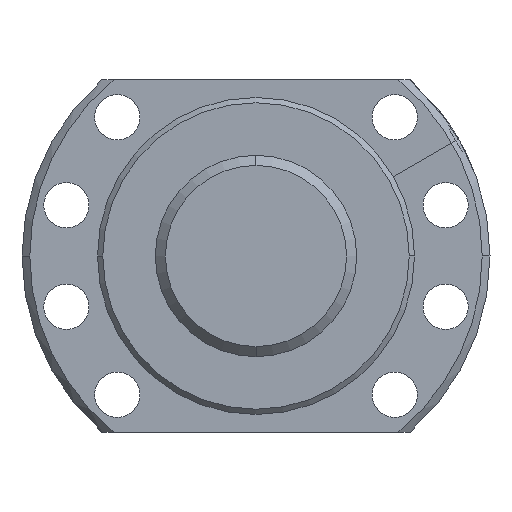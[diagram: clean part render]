
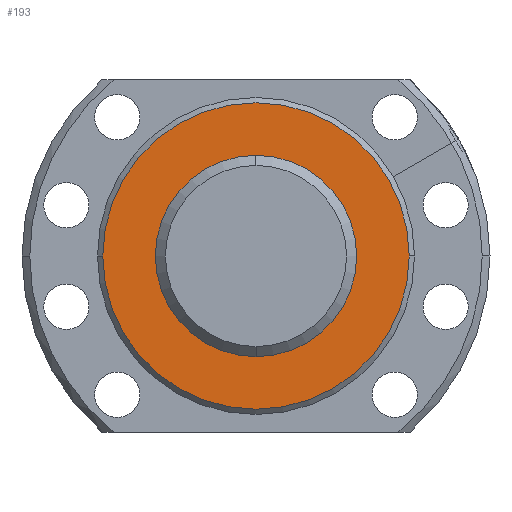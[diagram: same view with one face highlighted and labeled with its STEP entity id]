
A CAD part, left-side view. The second image highlights one B-rep face of the part: STEP entity #193.
In plain terms, the highlighted planar face has unit normal (-1, 0, 0).
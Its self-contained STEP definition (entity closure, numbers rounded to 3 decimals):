
#193 = ADVANCED_FACE( '', ( #361, #362 ), #363, .T. );
#361 = FACE_BOUND( '', #530, .T. );
#362 = FACE_OUTER_BOUND( '', #531, .T. );
#363 = PLANE( '', #532 );
#530 = EDGE_LOOP( '', ( #1073, #1074 ) );
#531 = EDGE_LOOP( '', ( #1075, #1076 ) );
#532 = AXIS2_PLACEMENT_3D( '', #1077, #1078, #1079 );
#1073 = ORIENTED_EDGE( '', *, *, #1235, .F. );
#1074 = ORIENTED_EDGE( '', *, *, #1149, .F. );
#1075 = ORIENTED_EDGE( '', *, *, #1121, .T. );
#1076 = ORIENTED_EDGE( '', *, *, #1246, .T. );
#1077 = CARTESIAN_POINT( '', ( 5., 25.225, 0. ) );
#1078 = DIRECTION( '', ( -1., 0., 0. ) );
#1079 = DIRECTION( '', ( 0., 1., 0. ) );
#1121 = EDGE_CURVE( '', #1310, #1314, #1316, .T. );
#1149 = EDGE_CURVE( '', #1366, #1362, #1368, .T. );
#1235 = EDGE_CURVE( '', #1362, #1366, #1509, .T. );
#1246 = EDGE_CURVE( '', #1314, #1310, #1520, .T. );
#1310 = VERTEX_POINT( '', #1598 );
#1314 = VERTEX_POINT( '', #1603 );
#1316 = CIRCLE( '', #1606, 30.45 );
#1362 = VERTEX_POINT( '', #1682 );
#1366 = VERTEX_POINT( '', #1687 );
#1368 = CIRCLE( '', #1690, 20. );
#1509 = CIRCLE( '', #2049, 20. );
#1520 = CIRCLE( '', #2060, 30.45 );
#1598 = CARTESIAN_POINT( '', ( 5., 30.45, 0. ) );
#1603 = CARTESIAN_POINT( '', ( 5., -30.45, 0. ) );
#1606 = AXIS2_PLACEMENT_3D( '', #2152, #2153, #2154 );
#1682 = CARTESIAN_POINT( '', ( 5., 20., 0. ) );
#1687 = CARTESIAN_POINT( '', ( 5., -20., 0. ) );
#1690 = AXIS2_PLACEMENT_3D( '', #2202, #2203, #2204 );
#2049 = AXIS2_PLACEMENT_3D( '', #2367, #2368, #2369 );
#2060 = AXIS2_PLACEMENT_3D( '', #2400, #2401, #2402 );
#2152 = CARTESIAN_POINT( '', ( 5., 0., 0. ) );
#2153 = DIRECTION( '', ( -1., 0., 0. ) );
#2154 = DIRECTION( '', ( 0., 1., 0. ) );
#2202 = CARTESIAN_POINT( '', ( 5., 0., 0. ) );
#2203 = DIRECTION( '', ( -1., 0., 0. ) );
#2204 = DIRECTION( '', ( 0., 1., 0. ) );
#2367 = CARTESIAN_POINT( '', ( 5., 0., 0. ) );
#2368 = DIRECTION( '', ( -1., 0., 0. ) );
#2369 = DIRECTION( '', ( 0., 1., 0. ) );
#2400 = CARTESIAN_POINT( '', ( 5., 0., 0. ) );
#2401 = DIRECTION( '', ( -1., 0., 0. ) );
#2402 = DIRECTION( '', ( 0., 1., 0. ) );
